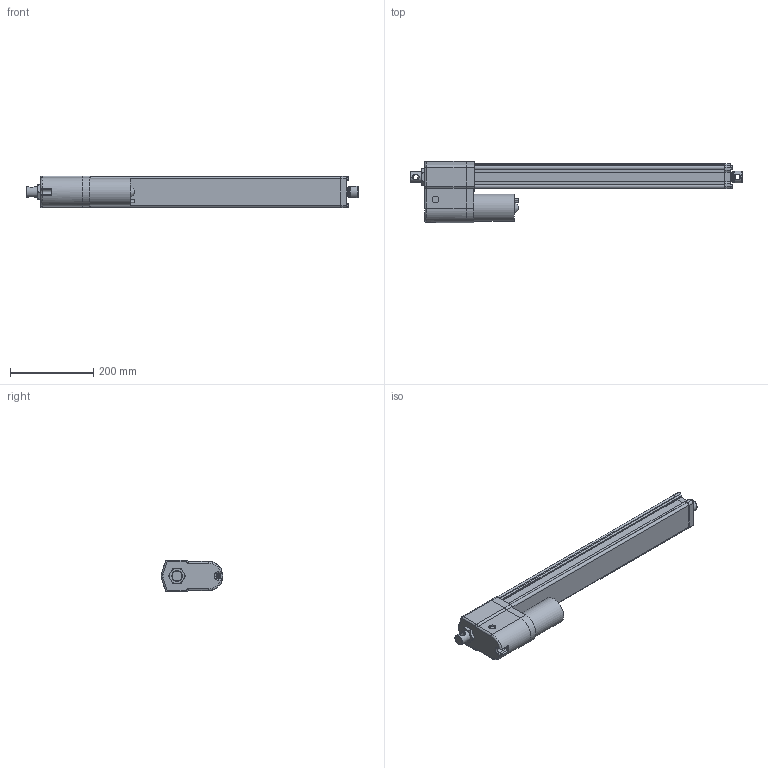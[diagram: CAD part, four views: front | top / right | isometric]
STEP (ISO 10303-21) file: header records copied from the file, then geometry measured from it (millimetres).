
FILE_DESCRIPTION( ( 'STEP AP203' ), '1' );
FILE_NAME( 'p:/temp/worker_341/temp/exporttempdir_6364_1342_6Usc4/format_0/DA12-05A65M50M0NPO-AMM.stp', '2020-04-12T18:19:46', ( 'License CC BY-ND 4.0' ), ( 'CADENAS' ), ' ', 'PARTsolutions', ' ' );
FILE_SCHEMA( ( 'CONFIG_CONTROL_DESIGN' ) );
Length unit declared in the file: millimetre
Products named in the file (8): DA12-05A65M50M0NPO-AMM; _ELECTRAK-LA14-DA12-05A65MM0NPO-50M-EU-REAR; _Electrak-10-EU-RA-D602700; _D602768eu; _ELECTRAK-LA14-DA12--MOTOR; _DA12-05A65M50M0NPOAMMtube; _ELECTRAK-LA14-DA12--50-PLATE; _ELECTRAK-LA14-DA12--5005A65MNPOM-ROD
Assembly tree (7 placements, depth 2):
  DA12-05A65M50M0NPO-AMM
    _ELECTRAK-LA14-DA12-05A65MM0NPO-50M-EU-REAR
    _Electrak-10-EU-RA-D602700
    _D602768eu
    _ELECTRAK-LA14-DA12--MOTOR
    _DA12-05A65M50M0NPOAMMtube
    _ELECTRAK-LA14-DA12--50-PLATE
    _ELECTRAK-LA14-DA12--5005A65MNPOM-ROD
Bounding box: 796.05 x 148 x 76.2 mm (x, y, z)
Volume: 2554162.4 mm3; surface area: 592762 mm2
Topology: 7 solids, 8 shells, 378 faces, 942 edges, 611 vertices
Faces by surface type: plane 184, cylinder 131, cone 45, torus 14, bspline 4
Full cylindrical faces by diameter (mm): 4 x2, 4.126 x1, 4.8 x5, 5 x5, 5.6 x4, 7.878 x4, 9.398 x1, 12.2 x2, 16 x1, 16.5 x1, 21.8 x1, 25.2 x1, 25.4 x1, 26.24 x1, 28.5 x1, 28.6 x2, 47.625 x1, 65.3 x1
Entity records: 11834 total; most frequent: CARTESIAN_POINT 2729, DIRECTION 1869, ORIENTED_EDGE 1744, EDGE_CURVE 872, AXIS2_PLACEMENT_3D 702, VERTEX_POINT 602, EDGE_LOOP 485, LINE 465
